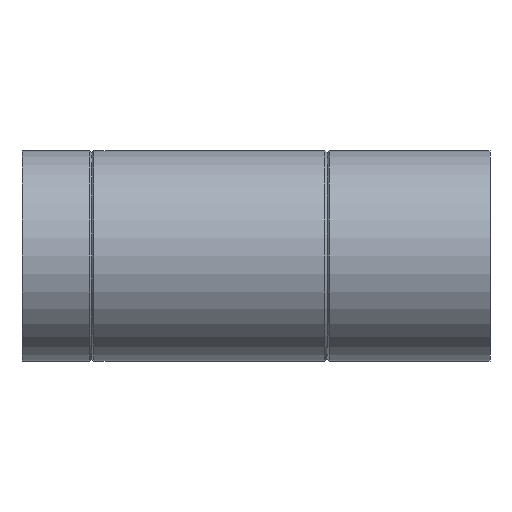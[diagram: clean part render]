
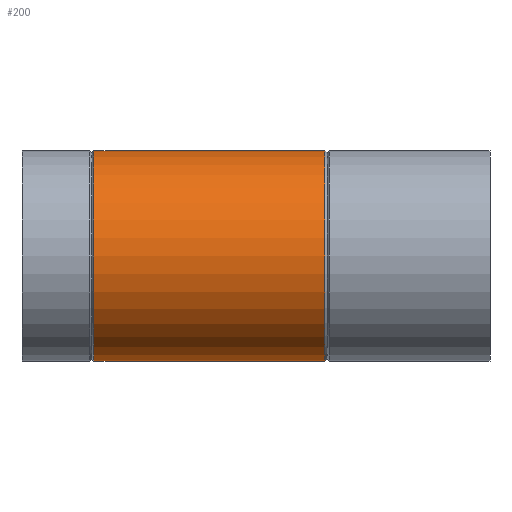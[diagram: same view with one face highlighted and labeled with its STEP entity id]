
A CAD part, left-side view. The second image highlights one B-rep face of the part: STEP entity #200.
In plain terms, the highlighted cylindrical face has radius 45.19 mm (diameter 90.38 mm), a full revolution.
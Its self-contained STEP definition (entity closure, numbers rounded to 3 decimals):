
#15=B_SPLINE_CURVE_WITH_KNOTS($,3,(#325,#326,#327,#328,#329,#330,#331,#332,
#333,#334,#335,#336,#337,#338,#339,#340,#341,#342,#343,#344,#345,#346,#347,
#348,#349,#350,#351,#352,#353,#354,#355,#356,#357,#358,#359,#360,#361,#362,
#363,#364,#365,#366,#367,#368,#369,#370,#371,#372,#373,#374,#375,#376,#377,
#378,#379,#380,#381,#382,#383,#384,#385,#386,#387,#388,#389,#390),
 .UNSPECIFIED.,.T.,.F.,(4,2,2,2,2,2,2,2,2,2,2,2,2,2,2,2,2,2,2,2,2,2,2,2,
2,2,2,2,2,2,2,2,4),(0.,0.79,1.581,2.371,
3.161,3.917,4.673,5.428,6.184,
6.94,7.695,8.451,9.207,9.997,
10.787,11.578,12.368,13.145,13.921,
14.698,15.475,16.228,16.98,17.733,
18.486,19.238,19.991,20.744,21.496,
22.273,23.05,23.827,24.603),
 .UNSPECIFIED.);
#17=CYLINDRICAL_SURFACE($,#222,45.19);
#26=FACE_BOUND($,#63,.T.);
#27=FACE_BOUND($,#64,.T.);
#48=FACE_OUTER_BOUND($,#62,.T.);
#62=EDGE_LOOP($,(#145));
#63=EDGE_LOOP($,(#146));
#64=EDGE_LOOP($,(#147));
#94=CIRCLE($,#221,45.19);
#95=CIRCLE($,#223,45.19);
#109=VERTEX_POINT($,#319);
#110=VERTEX_POINT($,#322);
#111=VERTEX_POINT($,#324);
#126=EDGE_CURVE($,#109,#109,#94,.T.);
#127=EDGE_CURVE($,#110,#110,#95,.T.);
#128=EDGE_CURVE($,#111,#111,#15,.T.);
#145=ORIENTED_EDGE($,*,*,#127,.T.);
#146=ORIENTED_EDGE($,*,*,#128,.T.);
#147=ORIENTED_EDGE($,*,*,#126,.T.);
#200=ADVANCED_FACE($,(#48,#26,#27),#17,.T.);
#221=AXIS2_PLACEMENT_3D($,#320,#258,#259);
#222=AXIS2_PLACEMENT_3D($,#321,#260,#261);
#223=AXIS2_PLACEMENT_3D($,#323,#262,#263);
#258=DIRECTION('center_axis',(0.,-1.,0.));
#259=DIRECTION('ref_axis',(1.,0.,0.));
#260=DIRECTION('center_axis',(0.,1.,0.));
#261=DIRECTION('ref_axis',(1.,0.,0.));
#262=DIRECTION('center_axis',(0.,1.,0.));
#263=DIRECTION('ref_axis',(1.,0.,0.));
#319=CARTESIAN_POINT('',(45.19,170.096,0.));
#320=CARTESIAN_POINT('Origin',(0.,170.096,0.));
#321=CARTESIAN_POINT('Origin',(0.,0.,0.));
#322=CARTESIAN_POINT('',(-45.19,70.904,0.));
#323=CARTESIAN_POINT('Origin',(0.,70.904,0.));
#324=CARTESIAN_POINT('',(24.955,121.153,37.675));
#325=CARTESIAN_POINT('Ctrl Pts',(24.955,121.153,37.675));
#326=CARTESIAN_POINT('Ctrl Pts',(24.955,123.788,37.675));
#327=CARTESIAN_POINT('Ctrl Pts',(25.381,126.368,37.399));
#328=CARTESIAN_POINT('Ctrl Pts',(26.834,131.351,36.371));
#329=CARTESIAN_POINT('Ctrl Pts',(27.852,133.756,35.618));
#330=CARTESIAN_POINT('Ctrl Pts',(30.155,138.336,33.691));
#331=CARTESIAN_POINT('Ctrl Pts',(31.439,140.512,32.515));
#332=CARTESIAN_POINT('Ctrl Pts',(34.013,144.56,29.812));
#333=CARTESIAN_POINT('Ctrl Pts',(35.304,146.431,28.283));
#334=CARTESIAN_POINT('Ctrl Pts',(37.649,149.706,25.07));
#335=CARTESIAN_POINT('Ctrl Pts',(38.798,151.246,23.278));
#336=CARTESIAN_POINT('Ctrl Pts',(40.916,154.019,19.315));
#337=CARTESIAN_POINT('Ctrl Pts',(41.884,155.251,17.143));
#338=CARTESIAN_POINT('Ctrl Pts',(43.487,157.27,12.53));
#339=CARTESIAN_POINT('Ctrl Pts',(44.124,158.058,10.084));
#340=CARTESIAN_POINT('Ctrl Pts',(44.975,159.109,5.079));
#341=CARTESIAN_POINT('Ctrl Pts',(45.19,159.371,2.519));
#342=CARTESIAN_POINT('Ctrl Pts',(45.19,159.371,-2.519));
#343=CARTESIAN_POINT('Ctrl Pts',(44.975,159.109,-5.079));
#344=CARTESIAN_POINT('Ctrl Pts',(44.124,158.058,-10.084));
#345=CARTESIAN_POINT('Ctrl Pts',(43.487,157.27,-12.53));
#346=CARTESIAN_POINT('Ctrl Pts',(41.884,155.251,-17.143));
#347=CARTESIAN_POINT('Ctrl Pts',(40.916,154.019,-19.315));
#348=CARTESIAN_POINT('Ctrl Pts',(38.798,151.246,-23.278));
#349=CARTESIAN_POINT('Ctrl Pts',(37.649,149.706,-25.07));
#350=CARTESIAN_POINT('Ctrl Pts',(35.304,146.431,-28.283));
#351=CARTESIAN_POINT('Ctrl Pts',(34.013,144.56,-29.812));
#352=CARTESIAN_POINT('Ctrl Pts',(31.439,140.512,-32.515));
#353=CARTESIAN_POINT('Ctrl Pts',(30.155,138.336,-33.691));
#354=CARTESIAN_POINT('Ctrl Pts',(27.852,133.756,-35.618));
#355=CARTESIAN_POINT('Ctrl Pts',(26.834,131.351,-36.371));
#356=CARTESIAN_POINT('Ctrl Pts',(25.381,126.368,-37.399));
#357=CARTESIAN_POINT('Ctrl Pts',(24.955,123.788,-37.675));
#358=CARTESIAN_POINT('Ctrl Pts',(24.955,118.564,-37.675));
#359=CARTESIAN_POINT('Ctrl Pts',(25.369,116.027,-37.408));
#360=CARTESIAN_POINT('Ctrl Pts',(26.803,111.139,-36.394));
#361=CARTESIAN_POINT('Ctrl Pts',(27.814,108.787,-35.648));
#362=CARTESIAN_POINT('Ctrl Pts',(30.109,104.323,-33.731));
#363=CARTESIAN_POINT('Ctrl Pts',(31.392,102.209,-32.56));
#364=CARTESIAN_POINT('Ctrl Pts',(33.965,98.29,-29.866));
#365=CARTESIAN_POINT('Ctrl Pts',(35.256,96.485,-28.342));
#366=CARTESIAN_POINT('Ctrl Pts',(37.614,93.311,-25.124));
#367=CARTESIAN_POINT('Ctrl Pts',(38.775,91.815,-23.319));
#368=CARTESIAN_POINT('Ctrl Pts',(40.909,89.132,-19.331));
#369=CARTESIAN_POINT('Ctrl Pts',(41.882,87.944,-17.147));
#370=CARTESIAN_POINT('Ctrl Pts',(43.49,86.003,-12.519));
#371=CARTESIAN_POINT('Ctrl Pts',(44.127,85.249,-10.069));
#372=CARTESIAN_POINT('Ctrl Pts',(44.977,84.245,-5.064));
#373=CARTESIAN_POINT('Ctrl Pts',(45.19,83.995,-2.509));
#374=CARTESIAN_POINT('Ctrl Pts',(45.19,83.995,2.509));
#375=CARTESIAN_POINT('Ctrl Pts',(44.977,84.245,5.064));
#376=CARTESIAN_POINT('Ctrl Pts',(44.127,85.249,10.069));
#377=CARTESIAN_POINT('Ctrl Pts',(43.49,86.003,12.519));
#378=CARTESIAN_POINT('Ctrl Pts',(41.882,87.944,17.147));
#379=CARTESIAN_POINT('Ctrl Pts',(40.909,89.132,19.331));
#380=CARTESIAN_POINT('Ctrl Pts',(38.775,91.815,23.319));
#381=CARTESIAN_POINT('Ctrl Pts',(37.614,93.311,25.124));
#382=CARTESIAN_POINT('Ctrl Pts',(35.256,96.485,28.342));
#383=CARTESIAN_POINT('Ctrl Pts',(33.965,98.29,29.866));
#384=CARTESIAN_POINT('Ctrl Pts',(31.392,102.209,32.56));
#385=CARTESIAN_POINT('Ctrl Pts',(30.109,104.323,33.731));
#386=CARTESIAN_POINT('Ctrl Pts',(27.814,108.787,35.648));
#387=CARTESIAN_POINT('Ctrl Pts',(26.803,111.139,36.394));
#388=CARTESIAN_POINT('Ctrl Pts',(25.369,116.027,37.408));
#389=CARTESIAN_POINT('Ctrl Pts',(24.955,118.564,37.675));
#390=CARTESIAN_POINT('Ctrl Pts',(24.955,121.153,37.675));
